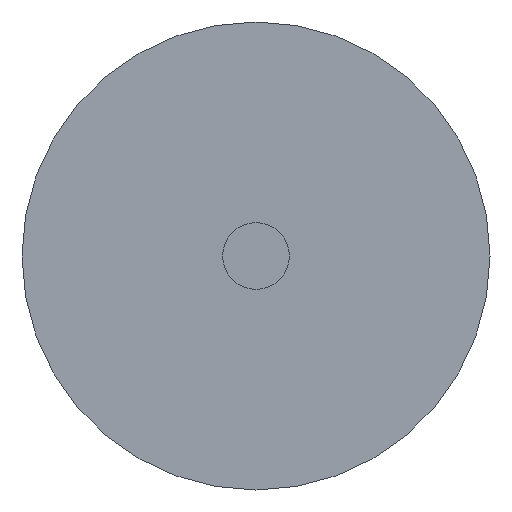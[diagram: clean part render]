
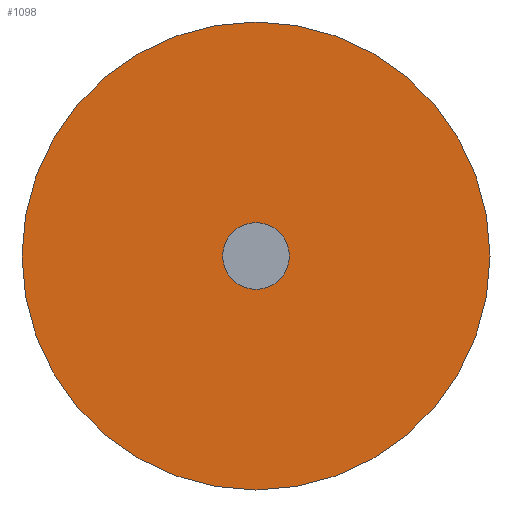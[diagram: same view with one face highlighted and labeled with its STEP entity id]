
A CAD part, left-side view. The second image highlights one B-rep face of the part: STEP entity #1098.
In plain terms, the highlighted planar face has unit normal (-1, 0, 0).
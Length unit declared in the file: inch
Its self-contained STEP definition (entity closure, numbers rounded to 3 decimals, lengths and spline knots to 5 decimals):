
#57 = CARTESIAN_POINT ( 'NONE',  ( 0., 0., 0. ) ) ;
#85 = CIRCLE ( 'NONE', #88, 0.14037 ) ;
#88 = AXIS2_PLACEMENT_3D ( 'NONE', #956, #1444, #355 ) ;
#90 = DIRECTION ( 'NONE',  ( 0., 0., -1. ) ) ;
#109 = ORIENTED_EDGE ( 'NONE', *, *, #1486, .F. ) ;
#147 = CARTESIAN_POINT ( 'NONE',  ( 0., 0., 0. ) ) ;
#168 = EDGE_CURVE ( 'NONE', #288, #1021, #277, .T. ) ;
#217 = PLANE ( 'NONE',  #896 ) ;
#230 = CIRCLE ( 'NONE', #1156, 0.14037 ) ;
#249 = CARTESIAN_POINT ( 'NONE',  ( 0., 0., -0.14037 ) ) ;
#266 = EDGE_LOOP ( 'NONE', ( #109, #741 ) ) ;
#277 = CIRCLE ( 'NONE', #279, 0.02 ) ;
#279 = AXIS2_PLACEMENT_3D ( 'NONE', #1530, #445, #926 ) ;
#288 = VERTEX_POINT ( 'NONE', #971 ) ;
#355 = DIRECTION ( 'NONE',  ( 0., 0., 1. ) ) ;
#407 = EDGE_CURVE ( 'NONE', #820, #697, #230, .T. ) ;
#445 = DIRECTION ( 'NONE',  ( -1., 0., 0. ) ) ;
#577 = DIRECTION ( 'NONE',  ( -1., 0., 0. ) ) ;
#643 = EDGE_CURVE ( 'NONE', #697, #820, #85, .T. ) ;
#653 = DIRECTION ( 'NONE',  ( -1., 0., 0. ) ) ;
#693 = CARTESIAN_POINT ( 'NONE',  ( 0., 0., 0.02 ) ) ;
#697 = VERTEX_POINT ( 'NONE', #1578 ) ;
#725 = CARTESIAN_POINT ( 'NONE',  ( 0., 0., 0. ) ) ;
#741 = ORIENTED_EDGE ( 'NONE', *, *, #168, .F. ) ;
#820 = VERTEX_POINT ( 'NONE', #249 ) ;
#835 = FACE_BOUND ( 'NONE', #266, .T. ) ;
#853 = ORIENTED_EDGE ( 'NONE', *, *, #407, .T. ) ;
#896 = AXIS2_PLACEMENT_3D ( 'NONE', #725, #1175, #90 ) ;
#926 = DIRECTION ( 'NONE',  ( 0., 0., 1. ) ) ;
#956 = CARTESIAN_POINT ( 'NONE',  ( 0., 0., 0. ) ) ;
#971 = CARTESIAN_POINT ( 'NONE',  ( 0., 0., -0.02 ) ) ;
#1021 = VERTEX_POINT ( 'NONE', #693 ) ;
#1036 = DIRECTION ( 'NONE',  ( 0., 0., 1. ) ) ;
#1041 = EDGE_LOOP ( 'NONE', ( #1332, #853 ) ) ;
#1098 = ADVANCED_FACE ( 'NONE', ( #835, #1308 ), #217, .F. ) ;
#1107 = DIRECTION ( 'NONE',  ( 0., 0., 1. ) ) ;
#1156 = AXIS2_PLACEMENT_3D ( 'NONE', #147, #653, #1107 ) ;
#1175 = DIRECTION ( 'NONE',  ( 1., 0., 0. ) ) ;
#1292 = CIRCLE ( 'NONE', #1298, 0.02 ) ;
#1298 = AXIS2_PLACEMENT_3D ( 'NONE', #57, #577, #1036 ) ;
#1308 = FACE_OUTER_BOUND ( 'NONE', #1041, .T. ) ;
#1332 = ORIENTED_EDGE ( 'NONE', *, *, #643, .T. ) ;
#1444 = DIRECTION ( 'NONE',  ( -1., 0., 0. ) ) ;
#1486 = EDGE_CURVE ( 'NONE', #1021, #288, #1292, .T. ) ;
#1530 = CARTESIAN_POINT ( 'NONE',  ( 0., 0., 0. ) ) ;
#1578 = CARTESIAN_POINT ( 'NONE',  ( 0., 0., 0.14037 ) ) ;
